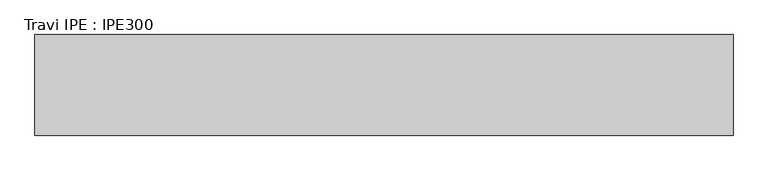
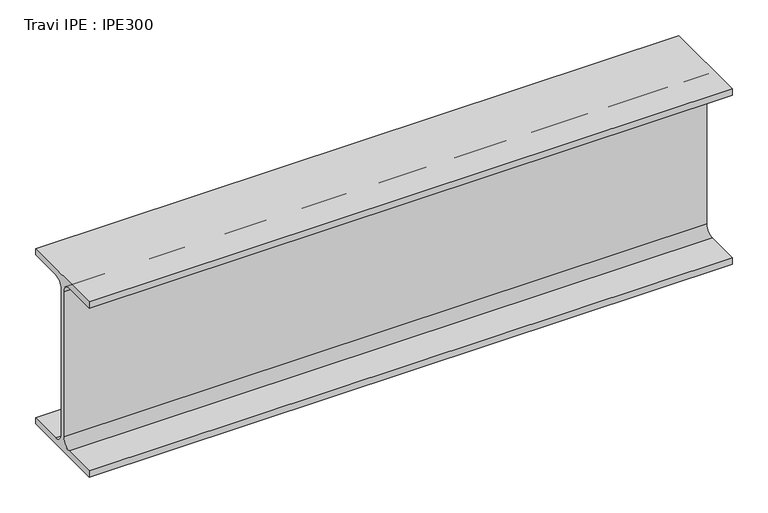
"""IFC4 building model written with IfcOpenShell, lengths in millimetres: beam geometry, Travi IPE : IPE300."""

from ifc_helpers import new_model, si_unit, point, frame, frame_2d, origin, place, context, project, spatial, polyline, circle_curve, trimmed, segment, composite_curve, outline, extrude, source, transform, mapped, element, save


def travi_ipe_ipe300_d6dc1d4a(model_context):
    return source(origin(), model_context, "Body", "SweptSolid", [
        extrude(outline(composite_curve([segment(polyline([(75.0, -139.3), (75.0, -150.0), (-75.0, -150.0), (-75.0, -139.3), (-18.55, -139.3)]), True, "CONTINUOUS"), segment(trimmed(circle_curve(frame_2d((-18.55, -124.3)), 15.0), [point((-18.55, -139.3))], [point((-3.55, -124.3))], True, "CARTESIAN"), True, "CONTINUOUS"), segment(polyline([(-3.55, -124.3), (-3.55, 124.3)]), True, "CONTINUOUS"), segment(trimmed(circle_curve(frame_2d((-18.55, 124.3)), 15.0), [point((-3.55, 124.3))], [point((-18.55, 139.3))], True, "CARTESIAN"), True, "CONTINUOUS"), segment(polyline([(-18.55, 139.3), (-75.0, 139.3), (-75.0, 150.0), (75.0, 150.0), (75.0, 139.3), (18.55, 139.3)]), True, "CONTINUOUS"), segment(trimmed(circle_curve(frame_2d((18.55, 124.3)), 15.0), [point((18.55, 139.3))], [point((3.55, 124.3))], True, "CARTESIAN"), True, "CONTINUOUS"), segment(polyline([(3.55, 124.3), (3.55, -124.3)]), True, "CONTINUOUS"), segment(trimmed(circle_curve(frame_2d((18.55, -124.3)), 15.0), [point((3.55, -124.3))], [point((18.55, -139.3))], True, "CARTESIAN"), True, "CONTINUOUS"), segment(polyline([(18.55, -139.3), (75.0, -139.3)]), True, "CONTINUOUS")], self_intersect=False)), frame((-578.5, 0.0, 0.0), z_axis=(1.0, 0.0, 0.0), x_axis=(0.0, 1.0, 0.0)), (0.0, 0.0, 1.0), 1041.0),
    ])


if __name__ == "__main__":
    model = new_model("IFC4")
    model_context = context("Model", 3, world=origin())
    ifc_project = project(units=[si_unit("LENGTHUNIT", "METRE", prefix="MILLI")], contexts=[model_context])
    site = spatial("IfcSite", under=ifc_project)
    building = spatial("IfcBuilding", under=site)
    placement = place(None, origin())
    travi_ipe_ipe300_shape = travi_ipe_ipe300_d6dc1d4a(model_context)
    element("IfcBeam", 1, ObjectType="Travi IPE : IPE300", at=placement, inside=building, context=model_context, shape_type="MappedRepresentation", body=[
        mapped(travi_ipe_ipe300_shape, transform((0.0, 0.0, 0.0), x_axis=(1.0, 0.0, 0.0), y_axis=(0.0, 1.0, 0.0), z_axis=(0.0, 0.0, 1.0))),
    ])
    save(model, "model.ifc")
